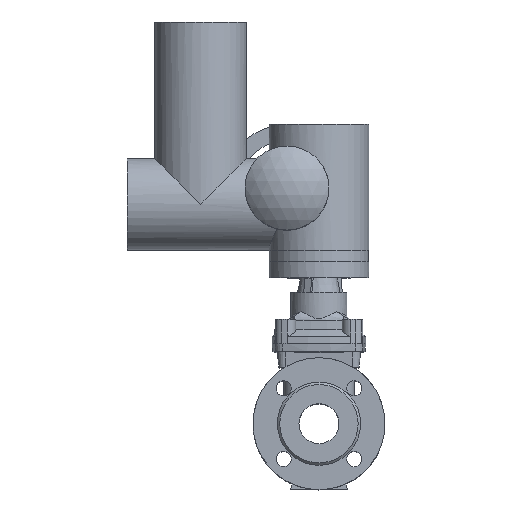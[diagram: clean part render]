
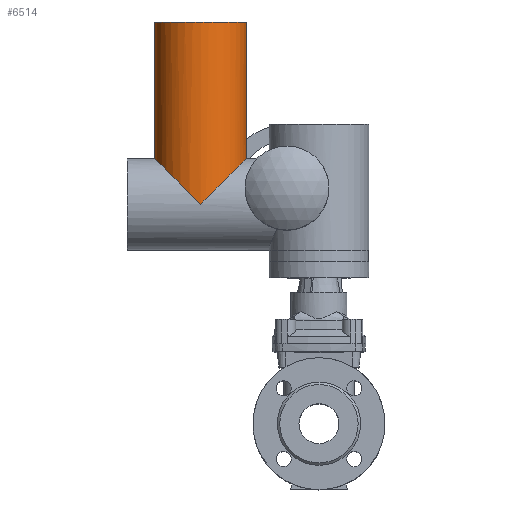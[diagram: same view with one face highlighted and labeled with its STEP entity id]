
A CAD part, top view. The second image highlights one B-rep face of the part: STEP entity #6514.
In plain terms, the highlighted cylindrical face has radius 57.5 mm (diameter 115 mm), a full revolution.
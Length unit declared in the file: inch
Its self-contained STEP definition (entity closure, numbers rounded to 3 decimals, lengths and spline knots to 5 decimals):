
#837 = VERTEX_POINT ( 'NONE', #6992 ) ;
#844 = VERTEX_POINT ( 'NONE', #6999 ) ;
#2501 = EDGE_LOOP ( 'NONE', ( #3950, #3951 ) ) ;
#3949 = ORIENTED_EDGE ( 'NONE', *, *, #6259, .F. ) ;
#3950 = ORIENTED_EDGE ( 'NONE', *, *, #6272, .F. ) ;
#3951 = ORIENTED_EDGE ( 'NONE', *, *, #6258, .F. ) ;
#4161 = AXIS2_PLACEMENT_3D ( 'NONE', #7359, #7360, #7361 ) ;
#4371 = AXIS2_PLACEMENT_3D ( 'NONE', #4675, #4672, #4671 ) ;
#4460 =( BOUNDED_CURVE ( )  B_SPLINE_CURVE ( 3, ( #7299, #7307, #7356, #7357 ),
 .UNSPECIFIED., .F., .F. ) 
 B_SPLINE_CURVE_WITH_KNOTS ( ( 4, 4 ),
 ( 4.71239, 7.85398 ),
 .UNSPECIFIED. ) 
 CURVE ( )  GEOMETRIC_REPRESENTATION_ITEM ( )  RATIONAL_B_SPLINE_CURVE ( ( 1., 0.333, 0.333, 1. ) ) 
 REPRESENTATION_ITEM ( '' )  );
#4475 =( BOUNDED_CURVE ( )  B_SPLINE_CURVE ( 3, ( #7395, #7400, #7401, #7402 ),
 .UNSPECIFIED., .F., .F. ) 
 B_SPLINE_CURVE_WITH_KNOTS ( ( 4, 4 ),
 ( 1.5708, 4.71239 ),
 .UNSPECIFIED. ) 
 CURVE ( )  GEOMETRIC_REPRESENTATION_ITEM ( )  RATIONAL_B_SPLINE_CURVE ( ( 1., 0.333, 0.333, 1. ) ) 
 REPRESENTATION_ITEM ( '' )  );
#4671 = DIRECTION ( 'NONE',  ( 0., 0., -1. ) ) ;
#4672 = DIRECTION ( 'NONE',  ( 0., 1., 0. ) ) ;
#4675 = CARTESIAN_POINT ( 'NONE',  ( -5.82677, 10.80709, -0.59055 ) ) ;
#4755 = CARTESIAN_POINT ( 'NONE',  ( -5.82677, 19.78346, -2.85433 ) ) ;
#5284 = CIRCLE ( 'NONE', #4161, 2.26378 ) ;
#6258 = EDGE_CURVE ( 'NONE', #844, #837, #4460, .T. ) ;
#6259 = EDGE_CURVE ( 'NONE', #8525, #8525, #5284, .T. ) ;
#6272 = EDGE_CURVE ( 'NONE', #837, #844, #4475, .T. ) ;
#6514 = ADVANCED_FACE ( 'NONE', ( #8453, #8442 ), #8457, .T. ) ;
#6992 = CARTESIAN_POINT ( 'NONE',  ( -5.82677, 10.80709, 1.67323 ) ) ;
#6999 = CARTESIAN_POINT ( 'NONE',  ( -5.82677, 10.80709, -2.85433 ) ) ;
#7299 = CARTESIAN_POINT ( 'NONE',  ( -5.82677, 10.80709, -2.85433 ) ) ;
#7307 = CARTESIAN_POINT ( 'NONE',  ( -1.29921, 15.33465, -2.85433 ) ) ;
#7356 = CARTESIAN_POINT ( 'NONE',  ( -1.29921, 15.33465, 1.67323 ) ) ;
#7357 = CARTESIAN_POINT ( 'NONE',  ( -5.82677, 10.80709, 1.67323 ) ) ;
#7359 = CARTESIAN_POINT ( 'NONE',  ( -5.82677, 19.78346, -0.59055 ) ) ;
#7360 = DIRECTION ( 'NONE',  ( 0., 1., 0. ) ) ;
#7361 = DIRECTION ( 'NONE',  ( 0., 0., -1. ) ) ;
#7395 = CARTESIAN_POINT ( 'NONE',  ( -5.82677, 10.80709, 1.67323 ) ) ;
#7400 = CARTESIAN_POINT ( 'NONE',  ( -10.35433, 15.33465, 1.67323 ) ) ;
#7401 = CARTESIAN_POINT ( 'NONE',  ( -10.35433, 15.33465, -2.85433 ) ) ;
#7402 = CARTESIAN_POINT ( 'NONE',  ( -5.82677, 10.80709, -2.85433 ) ) ;
#7713 = EDGE_LOOP ( 'NONE', ( #3949 ) ) ;
#8442 = FACE_OUTER_BOUND ( 'NONE', #2501, .T. ) ;
#8453 = FACE_OUTER_BOUND ( 'NONE', #7713, .T. ) ;
#8457 = CYLINDRICAL_SURFACE ( 'NONE', #4371, 2.26378 ) ;
#8525 = VERTEX_POINT ( 'NONE', #4755 ) ;
